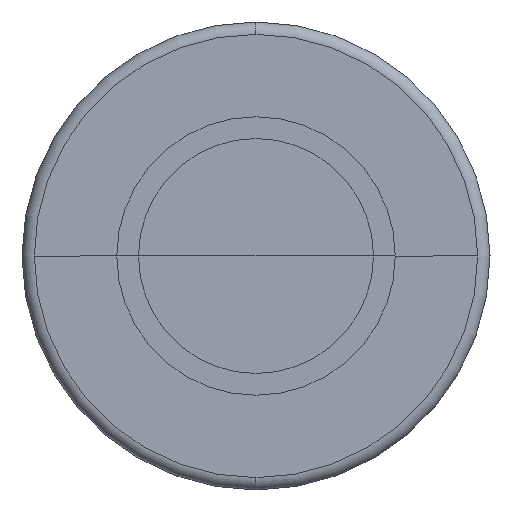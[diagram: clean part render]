
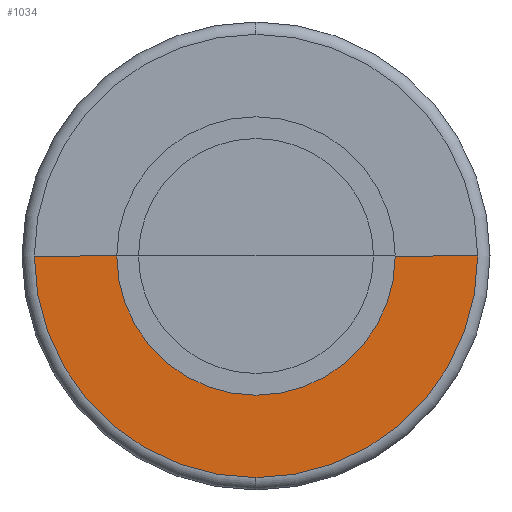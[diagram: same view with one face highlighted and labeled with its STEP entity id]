
A CAD part, left-side view. The second image highlights one B-rep face of the part: STEP entity #1034.
In plain terms, the highlighted planar face has unit normal (-1, 0, 0).
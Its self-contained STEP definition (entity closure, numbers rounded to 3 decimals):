
#2 = EDGE_CURVE ( 'NONE', #776, #165, #970, .T. ) ;
#28 = CARTESIAN_POINT ( 'NONE',  ( -34.4, 0., 0. ) ) ;
#91 = ORIENTED_EDGE ( 'NONE', *, *, #2, .T. ) ;
#106 = ORIENTED_EDGE ( 'NONE', *, *, #518, .T. ) ;
#143 = DIRECTION ( 'NONE',  ( 0., -1., 0. ) ) ;
#165 = VERTEX_POINT ( 'NONE', #794 ) ;
#271 = CARTESIAN_POINT ( 'NONE',  ( -34.4, -17.975, 0. ) ) ;
#278 = PLANE ( 'NONE',  #1392 ) ;
#340 = VERTEX_POINT ( 'NONE', #1254 ) ;
#342 = VERTEX_POINT ( 'NONE', #271 ) ;
#453 = DIRECTION ( 'NONE',  ( 0., -1., 0. ) ) ;
#465 = CARTESIAN_POINT ( 'NONE',  ( -34.4, -17.975, 0. ) ) ;
#479 = LINE ( 'NONE', #465, #1064 ) ;
#518 = EDGE_CURVE ( 'NONE', #340, #342, #661, .T. ) ;
#525 = ORIENTED_EDGE ( 'NONE', *, *, #990, .T. ) ;
#559 = VECTOR ( 'NONE', #1211, 1000. ) ;
#595 = ORIENTED_EDGE ( 'NONE', *, *, #922, .T. ) ;
#608 = CIRCLE ( 'NONE', #1479, 11.29 ) ;
#628 = FACE_OUTER_BOUND ( 'NONE', #1533, .T. ) ;
#661 = CIRCLE ( 'NONE', #849, 17.975 ) ;
#711 = VERTEX_POINT ( 'NONE', #1295 ) ;
#743 = ORIENTED_EDGE ( 'NONE', *, *, #768, .T. ) ;
#768 = EDGE_CURVE ( 'NONE', #165, #340, #1506, .T. ) ;
#776 = VERTEX_POINT ( 'NONE', #1280 ) ;
#794 = CARTESIAN_POINT ( 'NONE',  ( -34.4, 17.975, 0. ) ) ;
#802 = DIRECTION ( 'NONE',  ( -1., 0., 0. ) ) ;
#836 = DIRECTION ( 'NONE',  ( 0., 1., 0. ) ) ;
#849 = AXIS2_PLACEMENT_3D ( 'NONE', #1524, #924, #453 ) ;
#922 = EDGE_CURVE ( 'NONE', #711, #776, #608, .T. ) ;
#924 = DIRECTION ( 'NONE',  ( -1., 0., 0. ) ) ;
#966 = DIRECTION ( 'NONE',  ( 0., 1., 0. ) ) ;
#970 = LINE ( 'NONE', #1327, #559 ) ;
#990 = EDGE_CURVE ( 'NONE', #342, #711, #479, .T. ) ;
#1034 = ADVANCED_FACE ( 'NONE', ( #628 ), #278, .T. ) ;
#1064 = VECTOR ( 'NONE', #836, 1000. ) ;
#1101 = AXIS2_PLACEMENT_3D ( 'NONE', #28, #802, #143 ) ;
#1173 = DIRECTION ( 'NONE',  ( 1., 0., 0. ) ) ;
#1196 = CARTESIAN_POINT ( 'NONE',  ( -34.4, 0., 0. ) ) ;
#1211 = DIRECTION ( 'NONE',  ( 0., 1., 0. ) ) ;
#1214 = CARTESIAN_POINT ( 'NONE',  ( -34.4, 0., 0. ) ) ;
#1254 = CARTESIAN_POINT ( 'NONE',  ( -34.4, 0., -17.975 ) ) ;
#1280 = CARTESIAN_POINT ( 'NONE',  ( -34.4, 11.29, 0. ) ) ;
#1285 = DIRECTION ( 'NONE',  ( 0., -1., 0. ) ) ;
#1295 = CARTESIAN_POINT ( 'NONE',  ( -34.4, -11.29, 0. ) ) ;
#1327 = CARTESIAN_POINT ( 'NONE',  ( -34.4, 11.29, 0. ) ) ;
#1392 = AXIS2_PLACEMENT_3D ( 'NONE', #1214, #1467, #966 ) ;
#1467 = DIRECTION ( 'NONE',  ( -1., 0., 0. ) ) ;
#1479 = AXIS2_PLACEMENT_3D ( 'NONE', #1196, #1173, #1285 ) ;
#1506 = CIRCLE ( 'NONE', #1101, 17.975 ) ;
#1524 = CARTESIAN_POINT ( 'NONE',  ( -34.4, 0., 0. ) ) ;
#1533 = EDGE_LOOP ( 'NONE', ( #91, #743, #106, #525, #595 ) ) ;
